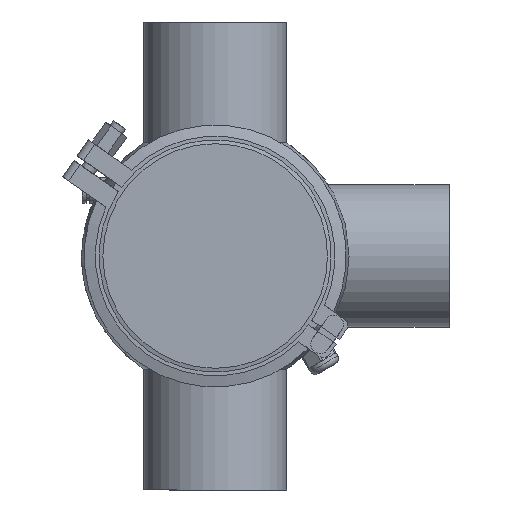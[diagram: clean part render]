
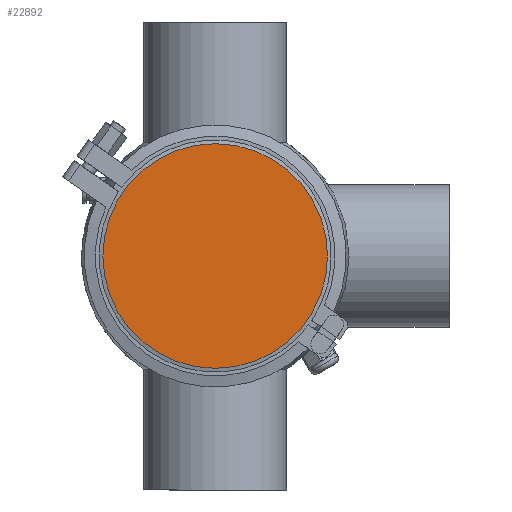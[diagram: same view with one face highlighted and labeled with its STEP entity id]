
A CAD part, front view. The second image highlights one B-rep face of the part: STEP entity #22892.
In plain terms, the highlighted planar face has unit normal (0, -1, 0).
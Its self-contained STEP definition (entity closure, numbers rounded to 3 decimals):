
#1033 = EDGE_CURVE ( 'NONE', #61299, #61299, #37378, .T. ) ;
#8910 = FACE_OUTER_BOUND ( 'NONE', #14260, .T. ) ;
#10620 = AXIS2_PLACEMENT_3D ( 'NONE', #24395, #15730, #43359 ) ;
#14260 = EDGE_LOOP ( 'NONE', ( #31976 ) ) ;
#15730 = DIRECTION ( 'NONE',  ( 0., 1., 0. ) ) ;
#18516 = CARTESIAN_POINT ( 'NONE',  ( 0., 0., 60. ) ) ;
#22892 = ADVANCED_FACE ( 'NONE', ( #8910 ), #60716, .T. ) ;
#24395 = CARTESIAN_POINT ( 'NONE',  ( 0., 0., 0. ) ) ;
#31976 = ORIENTED_EDGE ( 'NONE', *, *, #1033, .F. ) ;
#37378 = CIRCLE ( 'NONE', #10620, 60. ) ;
#38064 = CARTESIAN_POINT ( 'NONE',  ( -60., 0., 0. ) ) ;
#43359 = DIRECTION ( 'NONE',  ( 0., 0., 1. ) ) ;
#46772 = DIRECTION ( 'NONE',  ( 0., 0., -1. ) ) ;
#55041 = AXIS2_PLACEMENT_3D ( 'NONE', #38064, #61332, #46772 ) ;
#60716 = PLANE ( 'NONE',  #55041 ) ;
#61299 = VERTEX_POINT ( 'NONE', #18516 ) ;
#61332 = DIRECTION ( 'NONE',  ( 0., -1., 0. ) ) ;
